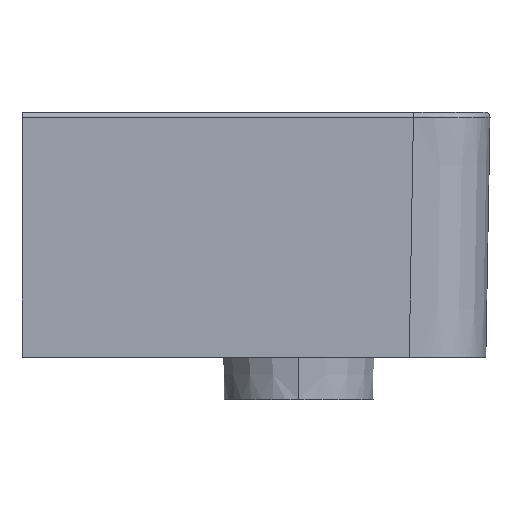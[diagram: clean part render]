
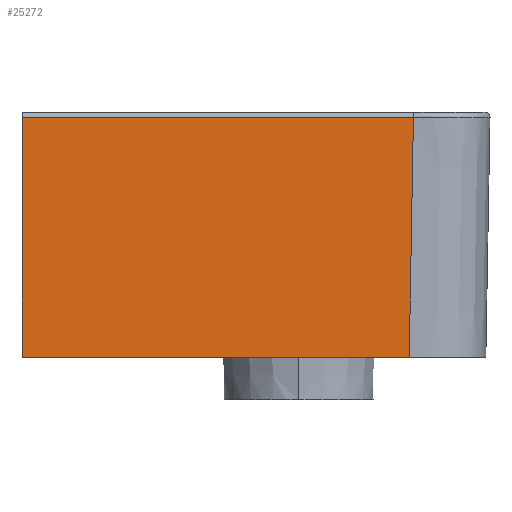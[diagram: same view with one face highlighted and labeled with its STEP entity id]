
A CAD part, front view. The second image highlights one B-rep face of the part: STEP entity #25272.
In plain terms, the highlighted planar face has unit normal (0, -1, -0.018).
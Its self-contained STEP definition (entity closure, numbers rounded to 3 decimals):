
#22393=CARTESIAN_POINT('Vertex',(51.998,-130.993,-25.)) ;
#22396=CARTESIAN_POINT('Line Origine',(-39.001,-130.993,-25.)) ;
#22400=CARTESIAN_POINT('Vertex',(-130.,-130.993,-25.)) ;
#25219=CARTESIAN_POINT('Line Origine',(-130.,-131.974,31.228)) ;
#25223=CARTESIAN_POINT('Vertex',(-130.,-132.956,87.456)) ;
#25250=CARTESIAN_POINT('Axis2P3D Location',(-20.,-133.,90.)) ;
#25255=CARTESIAN_POINT('Line Origine',(-20.,-132.956,87.456)) ;
#25259=CARTESIAN_POINT('Vertex',(53.961,-132.956,87.456)) ;
#25263=CARTESIAN_POINT('Control Point',(53.961,-132.956,87.456)) ;
#25264=CARTESIAN_POINT('Control Point',(51.998,-130.993,-25.)) ;
#22397=DIRECTION('Vector Direction',(1.,0.,0.)) ;
#25220=DIRECTION('Vector Direction',(0.,0.017,-1.)) ;
#25251=DIRECTION('Axis2P3D Direction',(0.,1.,0.017)) ;
#25252=DIRECTION('Axis2P3D XDirection',(-1.,0.,0.)) ;
#25256=DIRECTION('Vector Direction',(-1.,0.,0.)) ;
#25253=AXIS2_PLACEMENT_3D('Plane Axis2P3D',#25250,#25251,#25252) ;
#25267=ORIENTED_EDGE('',*,*,#25261,.T.) ;
#25268=ORIENTED_EDGE('',*,*,#25225,.F.) ;
#25269=ORIENTED_EDGE('',*,*,#22402,.F.) ;
#25270=ORIENTED_EDGE('',*,*,#25265,.F.) ;
#22398=VECTOR('Line Direction',#22397,1.) ;
#25221=VECTOR('Line Direction',#25220,1.) ;
#25257=VECTOR('Line Direction',#25256,1.) ;
#25272=ADVANCED_FACE('K\X2\00F6\X0\rper.2',(#25271),#25254,.F.) ;
#25262=B_SPLINE_CURVE_WITH_KNOTS('',1,(#25263,#25264),.UNSPECIFIED.,.F.,.U.,(2,2),(-54.973,57.518),.UNSPECIFIED.) ;
#22402=EDGE_CURVE('',#22394,#22401,#22399,.F.) ;
#25225=EDGE_CURVE('',#22401,#25224,#25222,.F.) ;
#25261=EDGE_CURVE('',#25260,#25224,#25258,.T.) ;
#25265=EDGE_CURVE('',#25260,#22394,#25262,.T.) ;
#25266=EDGE_LOOP('',(#25267,#25268,#25269,#25270)) ;
#25271=FACE_OUTER_BOUND('',#25266,.T.) ;
#22399=LINE('Line',#22396,#22398) ;
#25222=LINE('Line',#25219,#25221) ;
#25258=LINE('Line',#25255,#25257) ;
#25254=PLANE('',#25253) ;
#22394=VERTEX_POINT('',#22393) ;
#22401=VERTEX_POINT('',#22400) ;
#25224=VERTEX_POINT('',#25223) ;
#25260=VERTEX_POINT('',#25259) ;
